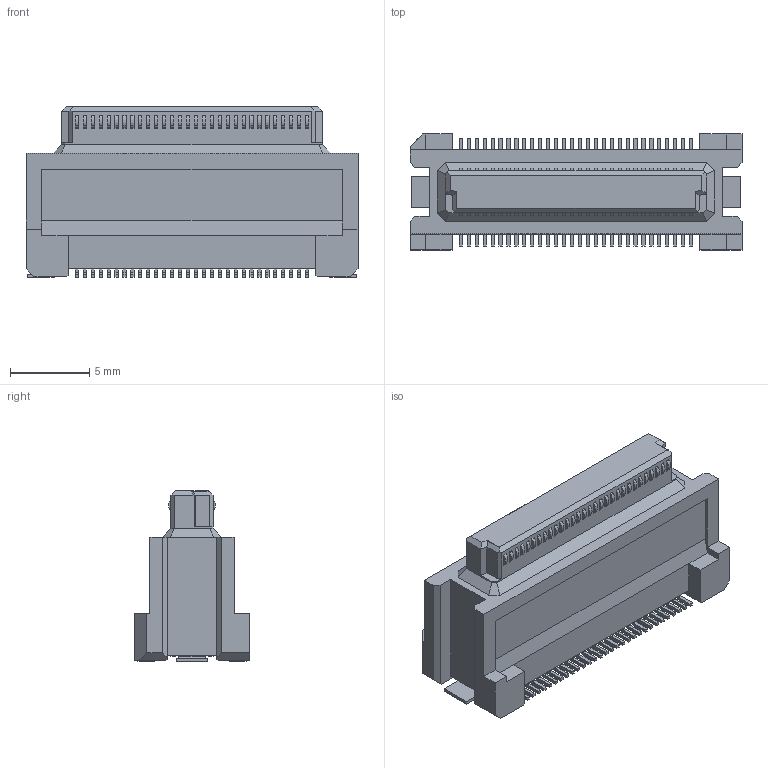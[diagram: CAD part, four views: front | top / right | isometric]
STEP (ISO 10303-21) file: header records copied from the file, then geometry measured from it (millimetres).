
FILE_DESCRIPTION(('Creo Elements/Direct Modeling STEP Export'),'2;1');
FILE_NAME('DY10-060FS-2.stp','2017-11-28T11:05:46',(''),(''),'Creo Elements/Direct Modeling STEP processor for AP214 (Solid Model)','Creo Elements/Direct Modeling 19.0F 14-Feb-2017 (C) Parametric Technology GmbH','');
FILE_SCHEMA(('AUTOMOTIVE_DESIGN { 1 0 10303 214 1 1 1 1 }'));
Length unit declared in the file: millimetre
Products named in the file (2): DY10-060FS-2
Assembly tree (1 placements, depth 2):
  DY10-060FS-2
    DY10-060FS-2
Bounding box: 20.9 x 7.3 x 10.73 mm (x, y, z)
Volume: 840.4 mm3; surface area: 906.5 mm2
Topology: 1 solids, 1 shells, 936 faces, 2573 edges, 1702 vertices
Faces by surface type: plane 682, cylinder 246, bspline 8
Entity records: 29887 total; most frequent: CARTESIAN_POINT 6334, ORIENTED_EDGE 5146, DIRECTION 4533, EDGE_CURVE 2573, VECTOR 2051, LINE 2051, VERTEX_POINT 1702, AXIS2_PLACEMENT_3D 1241
